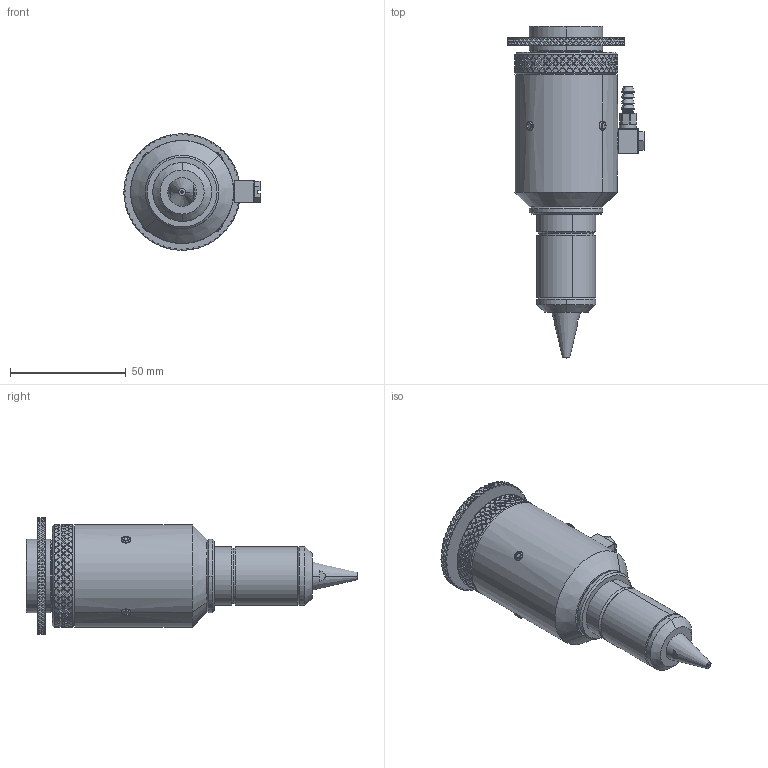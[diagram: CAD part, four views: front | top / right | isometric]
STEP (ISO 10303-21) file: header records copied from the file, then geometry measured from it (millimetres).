
FILE_DESCRIPTION (( 'STEP AP214' ), '1' );
FILE_NAME ('PHA-25-25-100-LB.STEP', '2016-10-11T14:59:37', ( '' ), ( '' ), 'SwSTEP 2.0', 'SolidWorks 2016', '' );
FILE_SCHEMA (( 'AUTOMOTIVE_DESIGN' ));
Length unit declared in the file: inch
Products named in the file (1): PHA-25-25-100-LB
Bounding box: 58.8 x 143.38 x 50.29 mm (x, y, z)
Volume: 125931.7 mm3; surface area: 23339.2 mm2
Topology: 1 solids, 1 shells, 2811 faces, 6208 edges, 3406 vertices
Faces by surface type: plane 2116, cylinder 598, cone 40, torus 37, sphere 20
Entity records: 74130 total; most frequent: CARTESIAN_POINT 19507, ORIENTED_EDGE 12376, DIRECTION 10170, EDGE_CURVE 6188, VERTEX_POINT 3406, AXIS2_PLACEMENT_3D 3397, VECTOR 3376, LINE 3376
